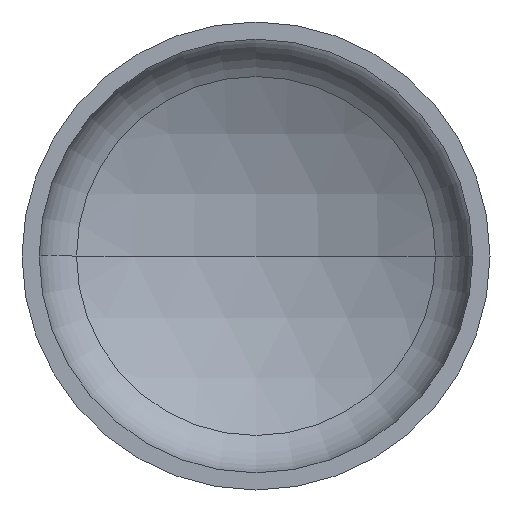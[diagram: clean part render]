
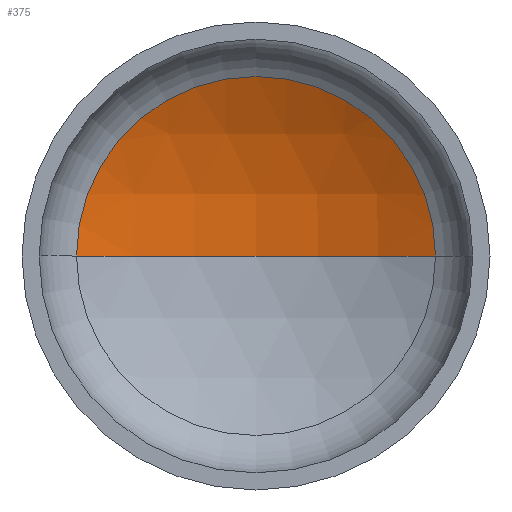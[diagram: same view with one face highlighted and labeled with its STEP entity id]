
A CAD part, front view. The second image highlights one B-rep face of the part: STEP entity #375.
In plain terms, the highlighted spherical face has radius 2400 mm.
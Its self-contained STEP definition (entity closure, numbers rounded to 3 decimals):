
#4 = DIRECTION ( 'NONE',  ( 1., 0., 0. ) ) ;
#6 = AXIS2_PLACEMENT_3D ( 'NONE', #120, #106, #162 ) ;
#9 = DIRECTION ( 'NONE',  ( 0., -1., 0. ) ) ;
#11 = CIRCLE ( 'NONE', #16, 2400. ) ;
#12 = AXIS2_PLACEMENT_3D ( 'NONE', #157, #159, #109 ) ;
#16 = AXIS2_PLACEMENT_3D ( 'NONE', #357, #261, #298 ) ;
#18 = EDGE_LOOP ( 'NONE', ( #40, #27, #134 ) ) ;
#27 = ORIENTED_EDGE ( 'NONE', *, *, #363, .T. ) ;
#36 = CARTESIAN_POINT ( 'NONE',  ( 0., 478.699, 0. ) ) ;
#40 = ORIENTED_EDGE ( 'NONE', *, *, #366, .F. ) ;
#55 = AXIS2_PLACEMENT_3D ( 'NONE', #36, #9, #4 ) ;
#61 = VERTEX_POINT ( 'NONE', #254 ) ;
#79 = VERTEX_POINT ( 'NONE', #238 ) ;
#106 = DIRECTION ( 'NONE',  ( 0., 0., -1. ) ) ;
#109 = DIRECTION ( 'NONE',  ( 1., 0., 0. ) ) ;
#120 = CARTESIAN_POINT ( 'NONE',  ( 0., -1627.557, 0. ) ) ;
#134 = ORIENTED_EDGE ( 'NONE', *, *, #154, .T. ) ;
#154 = EDGE_CURVE ( 'NONE', #61, #79, #393, .T. ) ;
#157 = CARTESIAN_POINT ( 'NONE',  ( 0., -1627.557, 0. ) ) ;
#159 = DIRECTION ( 'NONE',  ( 0., 0., 1. ) ) ;
#161 = VERTEX_POINT ( 'NONE', #259 ) ;
#162 = DIRECTION ( 'NONE',  ( -1., 0., 0. ) ) ;
#238 = CARTESIAN_POINT ( 'NONE',  ( -1150.515, 478.699, 0. ) ) ;
#241 = SPHERICAL_SURFACE ( 'NONE', #6, 2400. ) ;
#254 = CARTESIAN_POINT ( 'NONE',  ( 1150.515, 478.699, 0. ) ) ;
#259 = CARTESIAN_POINT ( 'NONE',  ( 0., 772.443, 0. ) ) ;
#261 = DIRECTION ( 'NONE',  ( 0., 0., -1. ) ) ;
#294 = FACE_OUTER_BOUND ( 'NONE', #18, .T. ) ;
#298 = DIRECTION ( 'NONE',  ( -1., 0., 0. ) ) ;
#357 = CARTESIAN_POINT ( 'NONE',  ( 0., -1627.557, 0. ) ) ;
#363 = EDGE_CURVE ( 'NONE', #161, #61, #11, .T. ) ;
#364 = CIRCLE ( 'NONE', #12, 2400. ) ;
#366 = EDGE_CURVE ( 'NONE', #161, #79, #364, .T. ) ;
#375 = ADVANCED_FACE ( 'NONE', ( #294 ), #241, .F. ) ;
#393 = CIRCLE ( 'NONE', #55, 1150.515 ) ;
